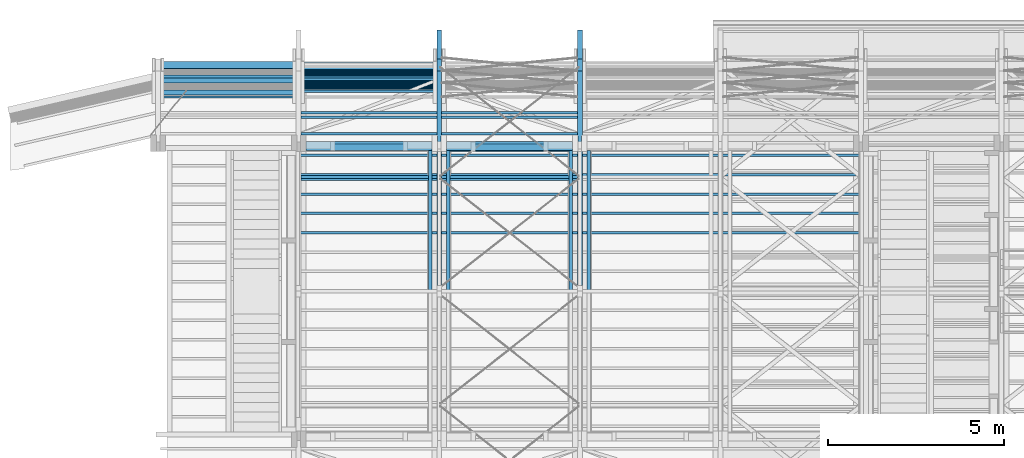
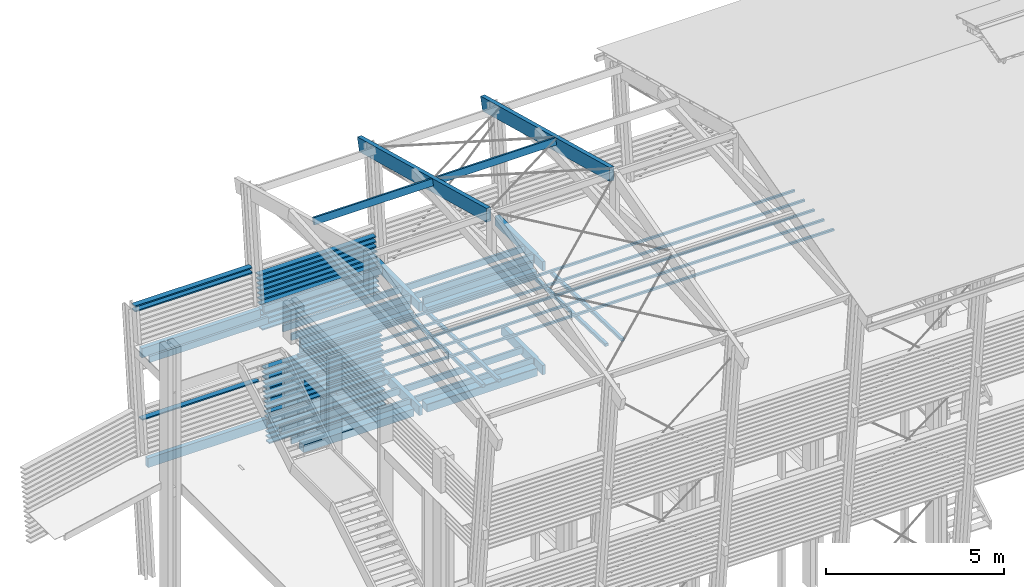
# One storey, part 12 of 48: 68 beams.
"""IFC2X3 building model written with IfcOpenShell, lengths in metres."""

import ifcopenshell
import ifcopenshell.guid

model = None  # the IFC model being written
_history = None  # IfcOwnerHistory: only IFC2X3 demands one
_inside = {}  # id of a spatial element -> (the spatial element, [elements in it])
_under = {}  # id of a project, library or spatial element -> (it, [spatial elements below it])
_declared = {}  # id of a project -> (the project, [libraries it declares])
_typed = {}  # id of a type object -> (the type object, [elements of that type])
_made_of = {}  # id of a material, layer set ... -> (it, [elements and type objects made of it])


def new_model(schema):
    """Start an empty IFC model of exactly this schema.

    Asked for "IFC4X3", IfcOpenShell would pick the latest addendum, in which some entities
    have other attributes; the version numbers below select the first issue.
    IFC2X3 requires an IfcOwnerHistory on every rooted entity: one is made here for all.
    """
    global model, _history
    if schema == "IFC4X3":
        model = ifcopenshell.file(schema_version=(4, 3, 0, 0))
    else:
        model = ifcopenshell.file(schema=schema)
    _inside.clear()
    _under.clear()
    _declared.clear()
    _typed.clear()
    _made_of.clear()
    _history = None
    if model.schema == "IFC2X3":
        org = make("IfcOrganization", Name="unknown")
        user = make(
            "IfcPersonAndOrganization",
            ThePerson=make("IfcPerson", FamilyName="unknown"),
            TheOrganization=org,
        )
        app = make(
            "IfcApplication",
            ApplicationDeveloper=org,
            Version="unknown",
            ApplicationFullName="unknown",
            ApplicationIdentifier="unknown",
        )
        _history = make(
            "IfcOwnerHistory",
            OwningUser=user,
            OwningApplication=app,
            ChangeAction="ADDED",
            CreationDate=0,
        )
    return model


def make(cls, **values):
    """One entity of the class cls with the attributes given. An attribute that is None is left unset."""
    return model.create_entity(
        cls, **{name: value for name, value in values.items() if value is not None}
    )


def rooted(cls, **values):
    """An entity with a GlobalId (a new one), such as an element, a storey or a relation."""
    return make(cls, GlobalId=ifcopenshell.guid.new(), OwnerHistory=_history, **values)


def si_unit(unit_type, name, prefix=None):
    """IfcSIUnit, for example si_unit("LENGTHUNIT", "METRE", prefix="MILLI")."""
    return make("IfcSIUnit", UnitType=unit_type, Prefix=prefix, Name=name)


def assignment(units):
    """IfcUnitAssignment: the units of a project."""
    return None if units is None else make("IfcUnitAssignment", Units=units)


def point(xyz):
    """IfcCartesianPoint."""
    return None if xyz is None else make("IfcCartesianPoint", Coordinates=xyz)


def direction(xyz):
    """IfcDirection."""
    return None if xyz is None else make("IfcDirection", DirectionRatios=xyz)


def frame(location, z_axis=None, x_axis=None):
    """IfcAxis2Placement3D, a coordinate frame: its origin and axes. An axis left out is left unset."""
    return make(
        "IfcAxis2Placement3D",
        Location=point(location),
        Axis=direction(z_axis),
        RefDirection=direction(x_axis),
    )


def origin_with_axes():
    """The frame at (0, 0, 0) with the z axis (0, 0, 1) and the x axis (1, 0, 0) written out."""
    return frame((0.0, 0.0, 0.0), z_axis=(0.0, 0.0, 1.0), x_axis=(1.0, 0.0, 0.0))


def place(relative_to, where):
    """IfcLocalPlacement: puts the frame where relative to a parent placement (None: the world)."""
    return make(
        "IfcLocalPlacement", PlacementRelTo=relative_to, RelativePlacement=where
    )


def context(
    kind, dimensions, precision=None, world=None, true_north=None, identifier=None
):
    """IfcGeometricRepresentationContext, for example the 3D "Model" context."""
    return make(
        "IfcGeometricRepresentationContext",
        ContextIdentifier=identifier,
        ContextType=kind,
        CoordinateSpaceDimension=dimensions,
        Precision=precision,
        WorldCoordinateSystem=world,
        TrueNorth=true_north,
    )


def subcontext(parent, identifier, kind, view, scale=None):
    """IfcGeometricRepresentationSubContext, for example "Body" below "Model"."""
    return make(
        "IfcGeometricRepresentationSubContext",
        ContextIdentifier=identifier,
        ContextType=kind,
        ParentContext=parent,
        TargetScale=scale,
        TargetView=view,
    )


def project(units=None, contexts=None):
    """IfcProject with its units and contexts."""
    return rooted(
        "IfcProject",
        Name="project",
        RepresentationContexts=contexts,
        UnitsInContext=assignment(units),
    )


def spatial(cls, under=None, at=None, **own):
    """A site, building, storey or space (cls), placed at a placement, below another one or the project."""
    s = rooted(cls, ObjectPlacement=at, **own)
    if under is not None:
        _under.setdefault(under.id(), (under, []))[1].append(s)
    return s


def faces_of(points, faces, orient=None, outer=None):
    """IfcFace entities. A face is a list of loops; a loop is a list of indices into points, from 0.

    orient and outer hold one flag for each loop. By default every Orientation is true, the
    first loop of a face is its IfcFaceOuterBound and the others are IfcFaceBound.
    """
    made = []
    for i, loops in enumerate(faces):
        bounds = []
        for j, loop in enumerate(loops):
            is_outer = j == 0 if outer is None else outer[i][j]
            bounds.append(
                make(
                    "IfcFaceOuterBound" if is_outer else "IfcFaceBound",
                    Bound=make("IfcPolyLoop", Polygon=[points[k] for k in loop]),
                    Orientation=True if orient is None else orient[i][j],
                )
            )
        made.append(make("IfcFace", Bounds=bounds))
    return made


def faceted_brep(points, faces, orient=None, outer=None, voids=None):
    """IfcFacetedBrep: a solid bounded by flat faces; with voids (closed shells), ...WithVoids."""
    shared = [point(p) for p in points]
    hull = make("IfcClosedShell", CfsFaces=faces_of(shared, faces, orient, outer))
    if voids is None:
        return make("IfcFacetedBrep", Outer=hull)
    return make(
        "IfcFacetedBrepWithVoids",
        Outer=hull,
        Voids=[
            make(cls, CfsFaces=faces_of(shared, fs, o, b)) for cls, fs, o, b in voids
        ],
    )


def shape(context_of_items, identifier, shape_type, items):
    """IfcShapeRepresentation: the items that make up one representation, for example the "Body"."""
    return make(
        "IfcShapeRepresentation",
        ContextOfItems=context_of_items,
        RepresentationIdentifier=identifier,
        RepresentationType=shape_type,
        Items=items,
    )


def material(Name=None, Category=None):
    """IfcMaterial."""
    return make("IfcMaterial", Name=Name, Category=Category)


def made_of(thing, what):
    """Note that an element or type object is made of a material, layer set ...; save() writes the relation."""
    if what is not None:
        _made_of.setdefault(what.id(), (what, []))[1].append(thing)
    return thing


def element(
    cls,
    number,
    at=None,
    inside=None,
    cuts=None,
    type_object=None,
    material=None,
    context=None,
    identifier="Body",
    shape_type=None,
    held_by="IfcProductDefinitionShape",
    body=None,
    shapes=None,
    **own,
):
    """One element of the class cls, such as IfcWall. Its Tag is "e" and its number.

    at: its placement. inside: the storey or other place that contains it. cuts: it is an
    opening in that element (IfcRelVoidsElement). A single representation is given by context,
    identifier, shape_type and body (its items); several are given by shapes. held_by: the class
    of the entity that holds the representations. save() writes the other relations.
    """
    e = rooted(cls, Tag="e%d" % number, ObjectPlacement=at, **own)
    if body is not None:
        shapes = [shape(context, identifier, shape_type, body)]
    if shapes is not None:
        e.Representation = make(held_by, Representations=shapes)
    if inside is not None:
        _inside.setdefault(inside.id(), (inside, []))[1].append(e)
    if cuts is not None:
        rooted(
            "IfcRelVoidsElement", RelatingBuildingElement=cuts, RelatedOpeningElement=e
        )
    if type_object is not None:
        _typed.setdefault(type_object.id(), (type_object, []))[1].append(e)
    return made_of(e, material)


def aggregate(whole, parts):
    """IfcRelAggregates: a whole, such as a stair, and the parts it consists of."""
    return rooted("IfcRelAggregates", RelatingObject=whole, RelatedObjects=parts)


def save(model, path):
    """Write the relations noted so far, then the file.

    IfcRelAggregates (storeys below a building ...), IfcRelContainedInSpatialStructure (elements
    in a storey), IfcRelDefinesByType, IfcRelAssociatesMaterial and IfcRelDeclares: one each for
    every whole, place, type object, material and project.
    """
    for whole, parts in _under.values():
        aggregate(whole, parts)
    for where, things in _inside.values():
        rooted(
            "IfcRelContainedInSpatialStructure",
            RelatedElements=things,
            RelatingStructure=where,
        )
    for kind, things in _typed.values():
        rooted("IfcRelDefinesByType", RelatedObjects=things, RelatingType=kind)
    for what, things in _made_of.values():
        rooted("IfcRelAssociatesMaterial", RelatedObjects=things, RelatingMaterial=what)
    for by, libraries in _declared.values():
        rooted("IfcRelDeclares", RelatingContext=by, RelatedDefinitions=libraries)
    model.write(path)


model = new_model("IFC2X3")

# Units and contexts
model_context = context("Model", 3, precision=1e-06, world=origin_with_axes(), true_north=direction((0.0, 1.0, 0.0)))
body_context = subcontext(model_context, "Body", "Model", "MODEL_VIEW")
ifc_project = project(units=[si_unit("LENGTHUNIT", "METRE"), si_unit("AREAUNIT", "SQUARE_METRE"), si_unit("VOLUMEUNIT", "CUBIC_METRE"), si_unit("PLANEANGLEUNIT", "RADIAN")], contexts=[model_context])

# Site, building, storey
site_placement = place(None, origin_with_axes())
site = spatial("IfcSite", under=ifc_project, at=site_placement, CompositionType="ELEMENT")
building_placement = place(site_placement, origin_with_axes())
building = spatial("IfcBuilding", under=site, at=building_placement, Name="Building 1", CompositionType="ELEMENT")
storey_placement = place(building_placement, origin_with_axes())
storey = spatial("IfcBuildingStorey", under=building, at=storey_placement, Name="Storey 1", CompositionType="ELEMENT", Elevation=0.0)

# Beams
ifc_material_1 = material(Name="Moabi")
beam_1_placement = place(storey_placement, frame((29.3927441, -182.920681, 7.5554733), z_axis=(0.0, -0.9945219, 0.1045285), x_axis=(-1.0, 0.0, 0.0)))
element("IfcBeam", 1, at=beam_1_placement, inside=storey, material=ifc_material_1, Name="garde corp", context=body_context, shape_type="Brep", body=[
    faceted_brep([(3.806, -0.02, 0.1), (3.806, 0.02, 0.1), (0.0, 0.02, 0.1), (0.0, -0.02, 0.1), (3.806, 0.02, -0.1), (0.0, 0.02, -0.1), (3.806, -0.02, -0.1), (0.0, -0.02, -0.1)], [[[0, 1, 2, 3]], [[1, 4, 5, 2]], [[4, 6, 7, 5]], [[6, 0, 3, 7]], [[1, 0, 6, 4]], [[7, 3, 2, 5]]]),
])
ifc_material_2 = material(Name="GL28h")
beam_2_placement = place(storey_placement, frame((29.6997437, -185.0764881, 7.4), z_axis=(0.0, 0.0, 1.0), x_axis=(1.0, 0.0, 0.0)))
element("IfcBeam", 2, at=beam_2_placement, inside=storey, material=ifc_material_2, Name="Buton", context=body_context, shape_type="Brep", body=[
    faceted_brep([(0.0, 0.13, 0.13), (0.0, -0.13, 0.13), (3.58, -0.13, 0.13), (3.58, 0.13, 0.13), (0.0, -0.13, -0.13), (3.58, -0.13, -0.13), (0.0, 0.13, -0.13), (3.58, 0.13, -0.13)], [[[0, 1, 2, 3]], [[2, 1, 4, 5]], [[1, 0, 6, 4]], [[5, 4, 6, 7]], [[0, 3, 7, 6]], [[3, 2, 5, 7]]]),
])
beam_3_placement = place(storey_placement, frame((29.4897437, -181.8355309, 11.197686), z_axis=(0.0, 0.258819, 0.9659258), x_axis=(0.0, -0.9659258, 0.258819)))
element("IfcBeam", 3, at=beam_3_placement, inside=storey, material=ifc_material_2, Name="Arbalétrier", context=body_context, shape_type="Brep", body=[
    faceted_brep([(7.4053414, 0.07, -0.23), (7.5285981, 0.07, 0.23), (7.5285981, -0.07, 0.23), (7.4053414, -0.07, -0.23), (0.0, 0.07, 0.23), (0.0, -0.07, 0.23), (0.0, 0.07, -0.23), (0.0, -0.07, -0.23)], [[[0, 1, 2, 3]], [[2, 1, 4, 5]], [[1, 0, 6, 4]], [[0, 3, 7, 6]], [[3, 2, 5, 7]], [[6, 7, 5, 4]]]),
])
for number, where, z_axis, x_axis in (
    (4, (29.6997437, -185.0764881, 4.085), (0.0, 0.0, 1.0), (1.0, 0.0, 0.0)),
    (5, (29.6997437, -185.0964881, 4.085), (0.0, 0.0, 1.0), (1.0, 0.0, 0.0)),
):
    element("IfcBeam", number, at=place(storey_placement, frame(where, z_axis=z_axis, x_axis=x_axis)), inside=storey, material=ifc_material_2, Name="Buton", context=body_context, shape_type="Brep", body=[
        faceted_brep([(0.0, 0.13, 0.13), (0.0, -0.13, 0.13), (3.58, -0.13, 0.13), (3.58, 0.13, 0.13), (0.0, -0.13, -0.13), (3.58, -0.13, -0.13), (0.0, 0.13, -0.13), (3.58, 0.13, -0.13)], [[[0, 1, 2, 3]], [[2, 1, 4, 5]], [[1, 0, 6, 4]], [[5, 4, 6, 7]], [[0, 3, 7, 6]], [[3, 2, 5, 7]]]),
    ])
beam_4_placement = place(storey_placement, frame((25.3927437, -182.77016, 8.9875849), z_axis=(0.0, -0.9945219, 0.1045285), x_axis=(-1.0, 0.0, 0.0)))
element("IfcBeam", 6, at=beam_4_placement, inside=storey, material=ifc_material_1, Name="garde corp", context=body_context, shape_type="Brep", body=[
    faceted_brep([(3.8190004, 0.02, 0.1), (3.8190008, 0.02, -0.1), (0.0, 0.02, -0.1), (0.0, 0.02, 0.1), (3.8190004, -0.02, -0.1), (0.0, -0.02, -0.1), (3.8190008, -0.02, 0.1), (0.0, -0.02, 0.1)], [[[0, 1, 2, 3]], [[1, 4, 5, 2]], [[4, 6, 7, 5]], [[6, 0, 3, 7]], [[0, 6, 4, 1]], [[5, 7, 3, 2]]]),
])
for number, where, z_axis, x_axis, name in (
    (7, (29.3927441, -182.9708546, 7.0781028), (0.0, -0.9945219, 0.1045285), (-1.0, 0.0, 0.0), "garde corp"),
    (8, (29.3927441, -182.8872319, 7.8737203), (0.0, -0.9945219, 0.1045285), (-1.0, 0.0, 0.0), "garde corp"),
    (9, (29.3927441, -182.9541301, 7.2372263), (0.0, -0.9945219, 0.1045285), (-1.0, 0.0, 0.0), "garde corp"),
    (10, (29.3927441, -182.9039564, 7.7145968), (0.0, -0.9945219, 0.1045285), (-1.0, 0.0, 0.0), "garde corp"),
    (11, (29.3927441, -182.9374055, 7.3963498), (0.0, -0.9945219, 0.1045285), (-1.0, 0.0, 0.0), "garde corp"),
):
    element("IfcBeam", number, at=place(storey_placement, frame(where, z_axis=z_axis, x_axis=x_axis)), inside=storey, material=ifc_material_1, Name=name, context=body_context, shape_type="Brep", body=[
        faceted_brep([(3.806, -0.02, 0.1), (3.806, 0.02, 0.1), (0.0, 0.02, 0.1), (0.0, -0.02, 0.1), (3.806, 0.02, -0.1), (0.0, 0.02, -0.1), (3.806, -0.02, -0.1), (0.0, -0.02, -0.1)], [[[0, 1, 2, 3]], [[1, 4, 5, 2]], [[4, 6, 7, 5]], [[6, 0, 3, 7]], [[1, 0, 6, 4]], [[7, 3, 2, 5]]]),
    ])
beam_5_placement = place(storey_placement, frame((25.3927439, -183.1548247, 5.3277443), z_axis=(0.0, -0.9945219, 0.1045285), x_axis=(-1.0, 0.0, 0.0)))
element("IfcBeam", 12, at=beam_5_placement, inside=storey, material=ifc_material_1, Name="garde corp", context=body_context, shape_type="Brep", body=[
    faceted_brep([(3.8048053, -0.02, 0.1), (3.8048053, 0.02, 0.1), (0.0, 0.02, 0.1), (0.0, -0.02, 0.1), (3.8048051, 0.02, -0.1), (0.0, 0.02, -0.1), (3.8048053, -0.02, -0.1), (0.0, -0.02, -0.1)], [[[0, 1, 2, 3]], [[1, 4, 5, 2]], [[4, 6, 7, 5]], [[6, 0, 3, 7]], [[1, 0, 6, 4]], [[7, 3, 2, 5]]]),
])
beam_6_placement = place(storey_placement, frame((29.3927441, -182.8370582, 8.3510909), z_axis=(0.0, -0.9945219, 0.1045285), x_axis=(-1.0, 0.0, 0.0)))
element("IfcBeam", 13, at=beam_6_placement, inside=storey, material=ifc_material_1, Name="garde corp", context=body_context, shape_type="Brep", body=[
    faceted_brep([(3.806, -0.02, 0.1), (3.806, 0.02, 0.1), (0.0, 0.02, 0.1), (0.0, -0.02, 0.1), (3.806, 0.02, -0.1), (0.0, 0.02, -0.1), (3.806, -0.02, -0.1), (0.0, -0.02, -0.1)], [[[0, 1, 2, 3]], [[1, 4, 5, 2]], [[4, 6, 7, 5]], [[6, 0, 3, 7]], [[1, 0, 6, 4]], [[7, 3, 2, 5]]]),
])
beam_7_placement = place(storey_placement, frame((29.3927439, -183.3722439, 3.2591388), z_axis=(0.0, -0.9945219, 0.1045285), x_axis=(-1.0, 0.0, 0.0)))
element("IfcBeam", 14, at=beam_7_placement, inside=storey, material=ifc_material_1, Name="garde corp", context=body_context, shape_type="Brep", body=[
    faceted_brep([(3.8048051, -0.02, 0.1), (3.8048051, 0.02, 0.1), (0.0, 0.02, 0.1), (0.0, -0.02, 0.1), (3.8048051, 0.02, -0.1), (0.0, 0.02, -0.1), (3.8048051, -0.02, -0.1), (0.0, -0.02, -0.1)], [[[0, 1, 2, 3]], [[1, 4, 5, 2]], [[4, 6, 7, 5]], [[6, 0, 3, 7]], [[1, 0, 6, 4]], [[7, 3, 2, 5]]]),
])
beam_8_placement = place(storey_placement, frame((29.3927439, -183.3555194, 3.4182623), z_axis=(0.0, -0.9945219, 0.1045285), x_axis=(-1.0, 0.0, 0.0)))
element("IfcBeam", 15, at=beam_8_placement, inside=storey, material=ifc_material_1, Name="garde corp", context=body_context, shape_type="Brep", body=[
    faceted_brep([(3.8047073, -0.02, 0.1), (3.8047077, 0.02, 0.1), (0.0, 0.02, 0.1), (0.0, -0.02, 0.1), (3.8047077, 0.02, -0.1), (0.0, 0.02, -0.1), (3.8047077, -0.02, -0.1), (0.0, -0.02, -0.1)], [[[0, 1, 2, 3]], [[1, 4, 5, 2]], [[4, 6, 7, 5]], [[6, 0, 3, 7]], [[1, 0, 6, 4]], [[7, 3, 2, 5]]]),
])
beam_9_placement = place(storey_placement, frame((25.3927441, -182.7868846, 8.8284614), z_axis=(0.0, -0.9945219, 0.1045285), x_axis=(-1.0, 0.0, 0.0)))
element("IfcBeam", 16, at=beam_9_placement, inside=storey, material=ifc_material_1, Name="garde corp", context=body_context, shape_type="Brep", body=[
    faceted_brep([(3.8190008, 0.02, 0.1), (3.8190008, 0.02, -0.1), (0.0, 0.02, -0.1), (0.0, 0.02, 0.1), (3.8190008, -0.02, -0.1), (0.0, -0.02, -0.1), (3.8190008, -0.02, 0.1), (0.0, -0.02, 0.1)], [[[0, 1, 2, 3]], [[1, 4, 5, 2]], [[4, 6, 7, 5]], [[6, 0, 3, 7]], [[0, 6, 4, 1]], [[5, 7, 3, 2]]]),
])
beam_10_placement = place(storey_placement, frame((29.3927439, -183.1213756, 5.6459913), z_axis=(0.0, -0.9945219, 0.1045285), x_axis=(-1.0, 0.0, 0.0)))
element("IfcBeam", 17, at=beam_10_placement, inside=storey, material=ifc_material_1, Name="garde corp", context=body_context, shape_type="Brep", body=[
    faceted_brep([(3.8048053, -0.02, 0.1), (3.8048053, 0.02, 0.1), (0.0, 0.02, 0.1), (0.0, -0.02, 0.1), (3.8048051, 0.02, -0.1), (0.0, 0.02, -0.1), (3.8048053, -0.02, -0.1), (0.0, -0.02, -0.1)], [[[0, 1, 2, 3]], [[1, 4, 5, 2]], [[4, 6, 7, 5]], [[6, 0, 3, 7]], [[1, 0, 6, 4]], [[7, 3, 2, 5]]]),
])
beam_11_placement = place(storey_placement, frame((29.3927439, -183.1381002, 5.4868678), z_axis=(0.0, -0.9945219, 0.1045285), x_axis=(-1.0, 0.0, 0.0)))
element("IfcBeam", 18, at=beam_11_placement, inside=storey, material=ifc_material_1, Name="garde corp", context=body_context, shape_type="Brep", body=[
    faceted_brep([(3.8047071, -0.02, 0.1), (3.8047079, 0.02, 0.1), (0.0, 0.02, 0.1), (0.0, -0.02, 0.1), (3.8047077, 0.02, -0.1), (0.0, 0.02, -0.1), (3.8047071, -0.02, -0.1), (0.0, -0.02, -0.1)], [[[0, 1, 2, 3]], [[1, 4, 5, 2]], [[4, 6, 7, 5]], [[6, 0, 3, 7]], [[1, 0, 6, 4]], [[7, 3, 2, 5]]]),
])
beam_12_placement = place(storey_placement, frame((29.3927439, -183.2049984, 4.8503738), z_axis=(0.0, -0.9945219, 0.1045285), x_axis=(-1.0, 0.0, 0.0)))
element("IfcBeam", 19, at=beam_12_placement, inside=storey, material=ifc_material_1, Name="garde corp", context=body_context, shape_type="Brep", body=[
    faceted_brep([(3.8048053, -0.02, 0.1), (3.8048053, 0.02, 0.1), (0.0, 0.02, 0.1), (0.0, -0.02, 0.1), (3.8048051, 0.02, -0.1), (0.0, 0.02, -0.1), (3.8048053, -0.02, -0.1), (0.0, -0.02, -0.1)], [[[0, 1, 2, 3]], [[1, 4, 5, 2]], [[4, 6, 7, 5]], [[6, 0, 3, 7]], [[1, 0, 6, 4]], [[7, 3, 2, 5]]]),
])
for number, where, z_axis, x_axis, name in (
    (20, (29.3927441, -182.8203337, 8.5102144), (0.0, -0.9945219, 0.1045285), (-1.0, 0.0, 0.0), "garde corp"),
    (21, (29.3927441, -182.9875792, 6.9189793), (0.0, -0.9945219, 0.1045285), (-1.0, 0.0, 0.0), "garde corp"),
    (22, (29.3927441, -182.8537828, 8.1919674), (0.0, -0.9945219, 0.1045285), (-1.0, 0.0, 0.0), "garde corp"),
):
    element("IfcBeam", number, at=place(storey_placement, frame(where, z_axis=z_axis, x_axis=x_axis)), inside=storey, material=ifc_material_1, Name=name, context=body_context, shape_type="Brep", body=[
        faceted_brep([(3.806, -0.02, 0.1), (3.806, 0.02, 0.1), (0.0, 0.02, 0.1), (0.0, -0.02, 0.1), (3.806, 0.02, -0.1), (0.0, 0.02, -0.1), (3.806, -0.02, -0.1), (0.0, -0.02, -0.1)], [[[0, 1, 2, 3]], [[1, 4, 5, 2]], [[4, 6, 7, 5]], [[6, 0, 3, 7]], [[1, 0, 6, 4]], [[7, 3, 2, 5]]]),
    ])
beam_13_placement = place(storey_placement, frame((25.4197437, -186.4446515, 7.494), z_axis=(0.0, 0.0, 1.0), x_axis=(1.0, 0.0, 0.0)))
element("IfcBeam", 23, at=beam_13_placement, inside=storey, material=ifc_material_2, Name="Poutre - Bois de construction", context=body_context, shape_type="Brep", body=[
    faceted_brep([(16.14, -0.035, -0.035), (16.14, -0.035, 0.035), (0.0, -0.035, 0.035), (0.0, -0.035, -0.035), (16.14, 0.035, 0.035), (0.0, 0.035, 0.035), (16.14, 0.035, -0.035), (0.0, 0.035, -0.035)], [[[0, 1, 2, 3]], [[1, 4, 5, 2]], [[4, 6, 7, 5]], [[6, 0, 3, 7]], [[1, 0, 6, 4]], [[7, 3, 2, 5]]]),
])
beam_14_placement = place(storey_placement, frame((25.5598393, -184.2514881, 7.699), z_axis=(0.0, 0.0, 1.0), x_axis=(1.0, 0.0, 0.0)))
element("IfcBeam", 24, at=beam_14_placement, inside=storey, material=ifc_material_2, Name="Solive", context=body_context, shape_type="Brep", body=[
    faceted_brep([(3.8599996, -0.035, -0.11), (3.8599996, 0.035, -0.11), (3.8599996, 0.035, 0.11), (3.8599996, -0.035, 0.11), (0.0, 0.035, -0.11), (0.0, 0.035, 0.11), (0.0, -0.035, -0.11), (0.0, -0.035, 0.11)], [[[0, 1, 2, 3]], [[2, 1, 4, 5]], [[1, 0, 6, 4]], [[0, 3, 7, 6]], [[3, 2, 5, 7]], [[7, 5, 4, 6]]]),
])
for number, where, z_axis, x_axis, name in (
    (25, (25.4197437, -186.9946515, 7.494), (0.0, 0.0, 1.0), (1.0, 0.0, 0.0), "Poutre - Bois de construction"),
    (26, (25.4197437, -187.5446515, 7.494), (0.0, 0.0, 1.0), (1.0, 0.0, 0.0), "Poutre - Bois de construction"),
    (27, (25.4197437, -185.3446515, 7.494), (0.0, 0.0, 1.0), (1.0, 0.0, 0.0), "Poutre - Bois de construction"),
    (28, (25.4197437, -185.8946515, 7.494), (0.0, 0.0, 1.0), (1.0, 0.0, 0.0), "Poutre - Bois de construction"),
):
    element("IfcBeam", number, at=place(storey_placement, frame(where, z_axis=z_axis, x_axis=x_axis)), inside=storey, material=ifc_material_2, Name=name, context=body_context, shape_type="Brep", body=[
        faceted_brep([(16.14, -0.035, -0.035), (16.14, -0.035, 0.035), (0.0, -0.035, 0.035), (0.0, -0.035, -0.035), (16.14, 0.035, 0.035), (0.0, 0.035, 0.035), (16.14, 0.035, -0.035), (0.0, 0.035, -0.035)], [[[0, 1, 2, 3]], [[1, 4, 5, 2]], [[4, 6, 7, 5]], [[6, 0, 3, 7]], [[1, 0, 6, 4]], [[7, 3, 2, 5]]]),
    ])
beam_15_placement = place(storey_placement, frame((25.5597433, -185.9913803, 12.4354756), z_axis=(0.0, 0.258819, 0.9659258), x_axis=(1.0, 0.0, 0.0)))
element("IfcBeam", 29, at=beam_15_placement, inside=storey, material=ifc_material_2, Name="Buton", context=body_context, shape_type="Brep", body=[
    faceted_brep([(3.8600004, -0.045, 0.11), (3.8600004, 0.045, 0.11), (0.0, 0.045, 0.11), (0.0, -0.045, 0.11), (3.8600004, -0.045, -0.11), (0.0, -0.045, -0.11), (3.8600004, 0.045, -0.11), (0.0, 0.045, -0.11)], [[[0, 1, 2, 3]], [[4, 0, 3, 5]], [[6, 4, 5, 7]], [[1, 6, 7, 2]], [[1, 0, 4, 6]], [[2, 7, 5, 3]]]),
])
beam_16_placement = place(storey_placement, frame((25.5597437, -184.1344693, 4.139), z_axis=(0.0, 0.0, 1.0), x_axis=(1.0, 0.0, 0.0)))
element("IfcBeam", 30, at=beam_16_placement, inside=storey, material=ifc_material_2, Name="Solive", context=body_context, shape_type="Brep", body=[
    faceted_brep([(3.86, 0.035, 0.11), (3.86, 0.035, -0.11), (0.0, 0.035, -0.11), (0.0, 0.035, 0.11), (3.86, -0.035, -0.11), (0.0, -0.035, -0.11), (3.86, -0.035, 0.11), (0.0, -0.035, 0.11)], [[[0, 1, 2, 3]], [[1, 4, 5, 2]], [[4, 6, 7, 5]], [[6, 0, 3, 7]], [[1, 0, 6, 4]], [[7, 3, 2, 5]]]),
])
beam_17_placement = place(storey_placement, frame((33.2297437, -189.2095691, 7.4500014), z_axis=(0.0, 0.0299865, 0.9995503), x_axis=(0.0, 0.9995503, -0.0299865)))
element("IfcBeam", 31, at=beam_17_placement, inside=storey, material=ifc_material_2, Name="Sous-glace", context=body_context, shape_type="Brep", body=[
    faceted_brep([(0.0, -0.05, 0.05), (0.003, -0.05, -0.05), (4.006373, -0.05, -0.05), (4.003373, -0.05, 0.05), (4.003373, 0.05, 0.05), (0.0, 0.05, 0.05), (0.003, 0.05, -0.05), (4.006373, 0.05, -0.05)], [[[0, 1, 2, 3]], [[3, 4, 5, 0]], [[6, 5, 4, 7]], [[1, 6, 7, 2]], [[5, 6, 1, 0]], [[2, 7, 4, 3]]]),
])
beam_18_placement = place(storey_placement, frame((29.3927437, -182.8036091, 8.6693379), z_axis=(0.0, -0.9945219, 0.1045285), x_axis=(-1.0, 0.0, 0.0)))
element("IfcBeam", 32, at=beam_18_placement, inside=storey, material=ifc_material_1, Name="garde corp", context=body_context, shape_type="Brep", body=[
    faceted_brep([(3.806, -0.02, 0.1), (3.806, 0.02, 0.1), (0.0, 0.02, 0.1), (0.0, -0.02, 0.1), (3.806, 0.02, -0.1), (0.0, 0.02, -0.1), (3.806, -0.02, -0.1), (0.0, -0.02, -0.1)], [[[0, 1, 2, 3]], [[1, 4, 5, 2]], [[4, 6, 7, 5]], [[6, 0, 3, 7]], [[1, 0, 6, 4]], [[7, 3, 2, 5]]]),
])
beam_19_placement = place(storey_placement, frame((29.3927439, -183.3220703, 3.7365093), z_axis=(0.0, -0.9945219, 0.1045285), x_axis=(-1.0, 0.0, 0.0)))
element("IfcBeam", 33, at=beam_19_placement, inside=storey, material=ifc_material_1, Name="garde corp", context=body_context, shape_type="Brep", body=[
    faceted_brep([(3.8047073, -0.02, 0.1), (3.8047077, 0.02, 0.1), (0.0, 0.02, 0.1), (0.0, -0.02, 0.1), (3.8047077, 0.02, -0.1), (0.0, 0.02, -0.1), (3.8047077, -0.02, -0.1), (0.0, -0.02, -0.1)], [[[0, 1, 2, 3]], [[1, 4, 5, 2]], [[4, 6, 7, 5]], [[6, 0, 3, 7]], [[1, 0, 6, 4]], [[7, 3, 2, 5]]]),
])
beam_20_placement = place(storey_placement, frame((29.3927439, -183.1715493, 5.1686208), z_axis=(0.0, -0.9945219, 0.1045285), x_axis=(-1.0, 0.0, 0.0)))
element("IfcBeam", 34, at=beam_20_placement, inside=storey, material=ifc_material_1, Name="garde corp", context=body_context, shape_type="Brep", body=[
    faceted_brep([(3.8048053, -0.02, 0.1), (3.8048053, 0.02, 0.1), (0.0, 0.02, 0.1), (0.0, -0.02, 0.1), (3.8048051, 0.02, -0.1), (0.0, 0.02, -0.1), (3.8048053, -0.02, -0.1), (0.0, -0.02, -0.1)], [[[0, 1, 2, 3]], [[1, 4, 5, 2]], [[4, 6, 7, 5]], [[6, 0, 3, 7]], [[1, 0, 6, 4]], [[7, 3, 2, 5]]]),
])
beam_21_placement = place(storey_placement, frame((29.3927439, -183.2551721, 4.3730033), z_axis=(0.0, -0.9945219, 0.1045285), x_axis=(-1.0, 0.0, 0.0)))
element("IfcBeam", 35, at=beam_21_placement, inside=storey, material=ifc_material_1, Name="garde corp", context=body_context, shape_type="Brep", body=[
    faceted_brep([(3.8048051, -0.02, 0.1), (3.8048051, 0.02, 0.1), (0.0, 0.02, 0.1), (0.0, -0.02, 0.1), (3.8048051, 0.02, -0.1), (0.0, 0.02, -0.1), (3.8048051, -0.02, -0.1), (0.0, -0.02, -0.1)], [[[0, 1, 2, 3]], [[1, 4, 5, 2]], [[4, 6, 7, 5]], [[6, 0, 3, 7]], [[1, 0, 6, 4]], [[7, 3, 2, 5]]]),
])
beam_22_placement = place(storey_placement, frame((29.3927439, -183.221723, 4.6912503), z_axis=(0.0, -0.9945219, 0.1045285), x_axis=(-1.0, 0.0, 0.0)))
element("IfcBeam", 36, at=beam_22_placement, inside=storey, material=ifc_material_1, Name="garde corp", context=body_context, shape_type="Brep", body=[
    faceted_brep([(3.8047071, -0.02, 0.1), (3.8047079, 0.02, 0.1), (0.0, 0.02, 0.1), (0.0, -0.02, 0.1), (3.8047071, 0.02, -0.1), (0.0, 0.02, -0.1), (3.8047071, -0.02, -0.1), (0.0, -0.02, -0.1)], [[[0, 1, 2, 3]], [[1, 4, 5, 2]], [[4, 6, 7, 5]], [[6, 0, 3, 7]], [[1, 0, 6, 4]], [[7, 3, 2, 5]]]),
])
beam_23_placement = place(storey_placement, frame((29.3927439, -183.1882738, 5.0094973), z_axis=(0.0, -0.9945219, 0.1045285), x_axis=(-1.0, 0.0, 0.0)))
element("IfcBeam", 37, at=beam_23_placement, inside=storey, material=ifc_material_1, Name="garde corp", context=body_context, shape_type="Brep", body=[
    faceted_brep([(3.8047077, -0.02, 0.1), (3.8047077, 0.02, 0.1), (0.0, 0.02, 0.1), (0.0, -0.02, 0.1), (3.8047077, 0.02, -0.1), (0.0, 0.02, -0.1), (3.8047077, -0.02, -0.1), (0.0, -0.02, -0.1)], [[[0, 1, 2, 3]], [[1, 4, 5, 2]], [[4, 6, 7, 5]], [[6, 0, 3, 7]], [[1, 0, 6, 4]], [[7, 3, 2, 5]]]),
])
beam_24_placement = place(storey_placement, frame((29.3927437, -182.8705073, 8.0328439), z_axis=(0.0, -0.9945219, 0.1045285), x_axis=(-1.0, 0.0, 0.0)))
element("IfcBeam", 38, at=beam_24_placement, inside=storey, material=ifc_material_1, Name="garde corp", context=body_context, shape_type="Brep", body=[
    faceted_brep([(3.806, -0.02, 0.1), (3.806, 0.02, 0.1), (0.0, 0.02, 0.1), (0.0, -0.02, 0.1), (3.806, 0.02, -0.1), (0.0, 0.02, -0.1), (3.806, -0.02, -0.1), (0.0, -0.02, -0.1)], [[[0, 1, 2, 3]], [[1, 4, 5, 2]], [[4, 6, 7, 5]], [[6, 0, 3, 7]], [[1, 0, 6, 4]], [[7, 3, 2, 5]]]),
])
beam_25_placement = place(storey_placement, frame((29.3927439, -183.3053457, 3.8956328), z_axis=(0.0, -0.9945219, 0.1045285), x_axis=(-1.0, 0.0, 0.0)))
element("IfcBeam", 39, at=beam_25_placement, inside=storey, material=ifc_material_1, Name="garde corp", context=body_context, shape_type="Brep", body=[
    faceted_brep([(3.8047073, -0.02, 0.1), (3.8047075, 0.02, 0.1), (0.0, 0.02, 0.1), (0.0, -0.02, 0.1), (3.8047077, 0.02, -0.1), (0.0, 0.02, -0.1), (3.8047077, -0.02, -0.1), (0.0, -0.02, -0.1)], [[[0, 1, 2, 3]], [[1, 4, 5, 2]], [[4, 6, 7, 5]], [[6, 0, 3, 7]], [[1, 0, 6, 4]], [[7, 3, 2, 5]]]),
])
beam_26_placement = place(storey_placement, frame((29.3927439, -183.2886212, 4.0547563), z_axis=(0.0, -0.9945219, 0.1045285), x_axis=(-1.0, 0.0, 0.0)))
element("IfcBeam", 40, at=beam_26_placement, inside=storey, material=ifc_material_1, Name="garde corp", context=body_context, shape_type="Brep", body=[
    faceted_brep([(3.8048051, -0.02, 0.1), (3.8048051, 0.02, 0.1), (0.0, 0.02, 0.1), (0.0, -0.02, 0.1), (3.8048051, 0.02, -0.1), (0.0, 0.02, -0.1), (3.8048051, -0.02, -0.1), (0.0, -0.02, -0.1)], [[[0, 1, 2, 3]], [[1, 4, 5, 2]], [[4, 6, 7, 5]], [[6, 0, 3, 7]], [[1, 0, 6, 4]], [[7, 3, 2, 5]]]),
])
beam_27_placement = place(storey_placement, frame((25.5597437, -183.5174506, 4.139), z_axis=(0.0, 0.0, 1.0), x_axis=(1.0, 0.0, 0.0)))
element("IfcBeam", 41, at=beam_27_placement, inside=storey, material=ifc_material_2, Name="Solive", context=body_context, shape_type="Brep", body=[
    faceted_brep([(3.86, 0.035, 0.11), (3.86, 0.035, -0.11), (0.0, 0.035, -0.11), (0.0, 0.035, 0.11), (3.86, -0.035, -0.11), (0.0, -0.035, -0.11), (3.86, -0.035, 0.11), (0.0, -0.035, 0.11)], [[[0, 1, 2, 3]], [[1, 4, 5, 2]], [[4, 6, 7, 5]], [[6, 0, 3, 7]], [[1, 0, 6, 4]], [[7, 3, 2, 5]]]),
])
beam_28_placement = place(storey_placement, frame((29.3927439, -183.2384475, 4.5321268), z_axis=(0.0, -0.9945219, 0.1045285), x_axis=(-1.0, 0.0, 0.0)))
element("IfcBeam", 42, at=beam_28_placement, inside=storey, material=ifc_material_1, Name="garde corp", context=body_context, shape_type="Brep", body=[
    faceted_brep([(3.8047077, -0.02, 0.1), (3.8047077, 0.02, 0.1), (0.0, 0.02, 0.1), (0.0, -0.02, 0.1), (3.8047077, 0.02, -0.1), (0.0, 0.02, -0.1), (3.8047077, -0.02, -0.1), (0.0, -0.02, -0.1)], [[[0, 1, 2, 3]], [[1, 4, 5, 2]], [[4, 6, 7, 5]], [[6, 0, 3, 7]], [[1, 0, 6, 4]], [[7, 3, 2, 5]]]),
])
beam_29_placement = place(storey_placement, frame((29.3927439, -183.1548247, 5.3277443), z_axis=(0.0, -0.9945219, 0.1045285), x_axis=(-1.0, 0.0, 0.0)))
element("IfcBeam", 43, at=beam_29_placement, inside=storey, material=ifc_material_1, Name="garde corp", context=body_context, shape_type="Brep", body=[
    faceted_brep([(3.8048053, -0.02, 0.1), (3.8048053, 0.02, 0.1), (0.0, 0.02, 0.1), (0.0, -0.02, 0.1), (3.8048051, 0.02, -0.1), (0.0, 0.02, -0.1), (3.8048053, -0.02, -0.1), (0.0, -0.02, -0.1)], [[[0, 1, 2, 3]], [[1, 4, 5, 2]], [[4, 6, 7, 5]], [[6, 0, 3, 7]], [[1, 0, 6, 4]], [[7, 3, 2, 5]]]),
])
beam_30_placement = place(storey_placement, frame((29.3927439, -183.2718966, 4.2138798), z_axis=(0.0, -0.9945219, 0.1045285), x_axis=(-1.0, 0.0, 0.0)))
element("IfcBeam", 44, at=beam_30_placement, inside=storey, material=ifc_material_1, Name="garde corp", context=body_context, shape_type="Brep", body=[
    faceted_brep([(3.8048051, -0.02, 0.1), (3.8048051, 0.02, 0.1), (0.0, 0.02, 0.1), (0.0, -0.02, 0.1), (3.8048051, 0.02, -0.1), (0.0, 0.02, -0.1), (3.8048051, -0.02, -0.1), (0.0, -0.02, -0.1)], [[[0, 1, 2, 3]], [[1, 4, 5, 2]], [[4, 6, 7, 5]], [[6, 0, 3, 7]], [[1, 0, 6, 4]], [[7, 3, 2, 5]]]),
])
beam_31_placement = place(storey_placement, frame((29.3927439, -183.3387948, 3.5773858), z_axis=(0.0, -0.9945219, 0.1045285), x_axis=(-1.0, 0.0, 0.0)))
element("IfcBeam", 45, at=beam_31_placement, inside=storey, material=ifc_material_1, Name="garde corp", context=body_context, shape_type="Brep", body=[
    faceted_brep([(3.8047077, -0.02, 0.1), (3.8047077, 0.02, 0.1), (0.0, 0.02, 0.1), (0.0, -0.02, 0.1), (3.8047077, 0.02, -0.1), (0.0, 0.02, -0.1), (3.8047077, -0.02, -0.1), (0.0, -0.02, -0.1)], [[[0, 1, 2, 3]], [[1, 4, 5, 2]], [[4, 6, 7, 5]], [[6, 0, 3, 7]], [[1, 0, 6, 4]], [[7, 3, 2, 5]]]),
])
beam_32_placement = place(storey_placement, frame((25.5597437, -184.7314881, 4.139), z_axis=(0.0, 0.0, 1.0), x_axis=(1.0, 0.0, 0.0)))
element("IfcBeam", 46, at=beam_32_placement, inside=storey, material=ifc_material_2, Name="Solive", context=body_context, shape_type="Brep", body=[
    faceted_brep([(3.86, 0.035, 0.11), (3.86, 0.035, -0.11), (0.0, 0.035, -0.11), (0.0, 0.035, 0.11), (3.86, -0.035, -0.11), (0.0, -0.035, -0.11), (3.86, -0.035, 0.11), (0.0, -0.035, 0.11)], [[[0, 1, 2, 3]], [[1, 4, 5, 2]], [[4, 6, 7, 5]], [[6, 0, 3, 7]], [[1, 0, 6, 4]], [[7, 3, 2, 5]]]),
])
beam_33_placement = place(storey_placement, frame((33.4897437, -185.2264881, 4.089), z_axis=(0.0, 0.0, 1.0), x_axis=(0.0, 1.0, 0.0)))
element("IfcBeam", 47, at=beam_33_placement, inside=storey, material=ifc_material_2, Name="Sommier Coursive", context=body_context, shape_type="Brep", body=[
    faceted_brep([(0.0, 0.05, 0.16), (0.44, 0.05, 0.16), (0.44, 0.05, -0.16), (0.0, 0.05, -0.16), (0.44, 0.07, 0.16), (0.44, 0.07, -0.16), (0.0, -0.05, 0.16), (0.44, -0.05, 0.16), (0.44, -0.07, 0.16), (2.2900003, -0.07, 0.16), (2.2900003, 0.07, 0.16), (0.0, -0.05, -0.16), (0.44, -0.05, -0.16), (0.44, -0.07, -0.16), (2.2900003, 0.07, -0.16), (2.2900003, -0.07, -0.16)], [[[0, 1, 2, 3]], [[1, 4, 5, 2]], [[4, 1, 0, 6, 7, 8, 9, 10]], [[0, 3, 11, 6]], [[11, 12, 7, 6]], [[12, 13, 8, 7]], [[2, 5, 14, 15, 13, 12, 11, 3]], [[8, 13, 15, 9]], [[5, 4, 10, 14]], [[10, 9, 15, 14]]]),
])
beam_34_placement = place(storey_placement, frame((25.5597437, -184.7314881, 7.699), z_axis=(0.0, 0.0, 1.0), x_axis=(1.0, 0.0, 0.0)))
element("IfcBeam", 48, at=beam_34_placement, inside=storey, material=ifc_material_2, Name="Solive", context=body_context, shape_type="Brep", body=[
    faceted_brep([(3.86, 0.035, 0.11), (3.86, 0.035, -0.11), (0.0, 0.035, -0.11), (0.0, 0.035, 0.11), (3.86, -0.035, -0.11), (0.0, -0.035, -0.11), (3.86, -0.035, 0.11), (0.0, -0.035, 0.11)], [[[0, 1, 2, 3]], [[1, 4, 5, 2]], [[4, 6, 7, 5]], [[6, 0, 3, 7]], [[1, 0, 6, 4]], [[7, 3, 2, 5]]]),
])
beam_35_placement = place(storey_placement, frame((25.5598393, -183.1714881, 7.699), z_axis=(0.0, 0.0, 1.0), x_axis=(1.0, 0.0, 0.0)))
element("IfcBeam", 49, at=beam_35_placement, inside=storey, material=ifc_material_2, Name="Solive", context=body_context, shape_type="Brep", body=[
    faceted_brep([(3.8599996, -0.035, -0.11), (3.8599996, 0.035, -0.11), (3.8599996, 0.035, 0.11), (3.8599996, -0.035, 0.11), (0.0, 0.035, -0.11), (0.0, 0.035, 0.11), (0.0, -0.035, -0.11), (0.0, -0.035, 0.11)], [[[0, 1, 2, 3]], [[2, 1, 4, 5]], [[1, 0, 6, 4]], [[0, 3, 7, 6]], [[3, 2, 5, 7]], [[7, 5, 4, 6]]]),
])
beam_36_placement = place(storey_placement, frame((33.7497437, -189.2095691, 7.4500014), z_axis=(0.0, 0.0299865, 0.9995503), x_axis=(0.0, 0.9995503, -0.0299865)))
element("IfcBeam", 50, at=beam_36_placement, inside=storey, material=ifc_material_2, Name="Sous-glace", context=body_context, shape_type="Brep", body=[
    faceted_brep([(0.0, -0.05, 0.05), (0.003, -0.05, -0.05), (4.006373, -0.05, -0.05), (4.003373, -0.05, 0.05), (4.003373, 0.05, 0.05), (0.0, 0.05, 0.05), (0.003, 0.05, -0.05), (4.006373, 0.05, -0.05)], [[[0, 1, 2, 3]], [[3, 4, 5, 0]], [[6, 5, 4, 7]], [[1, 6, 7, 2]], [[5, 6, 1, 0]], [[2, 7, 4, 3]]]),
])
beam_37_placement = place(storey_placement, frame((29.6997437, -184.9814881, 7.64), z_axis=(0.0, 0.0, 1.0), x_axis=(1.0, 0.0, 0.0)))
element("IfcBeam", 51, at=beam_37_placement, inside=storey, material=ifc_material_2, Name="Rive", context=body_context, shape_type="Brep", body=[
    faceted_brep([(0.0, -0.035, -0.11), (0.0, -0.035, 0.11), (0.0, 0.035, 0.11), (0.0, 0.035, -0.11), (3.58, 0.035, -0.11), (3.58, -0.035, -0.11), (3.58, -0.035, 0.11), (3.58, 0.035, 0.11)], [[[0, 1, 2, 3]], [[0, 3, 4, 5]], [[1, 0, 5, 6]], [[5, 4, 7, 6]], [[3, 2, 7, 4]], [[2, 1, 6, 7]]]),
])
for number, where, z_axis, x_axis in (
    (52, (29.5597437, -184.7314881, 4.139), (0.0, 0.0, 1.0), (1.0, 0.0, 0.0)),
    (53, (29.5597437, -184.1344693, 4.139), (0.0, 0.0, 1.0), (1.0, 0.0, 0.0)),
):
    element("IfcBeam", number, at=place(storey_placement, frame(where, z_axis=z_axis, x_axis=x_axis)), inside=storey, material=ifc_material_2, Name="Solive", context=body_context, shape_type="Brep", body=[
        faceted_brep([(3.86, 0.035, 0.11), (3.86, 0.035, -0.11), (0.0, 0.035, -0.11), (0.0, 0.035, 0.11), (3.86, -0.035, -0.11), (0.0, -0.035, -0.11), (3.86, -0.035, 0.11), (0.0, -0.035, 0.11)], [[[0, 1, 2, 3]], [[1, 4, 5, 2]], [[4, 6, 7, 5]], [[6, 0, 3, 7]], [[1, 0, 6, 4]], [[7, 3, 2, 5]]]),
    ])
beam_38_placement = place(storey_placement, frame((29.2297437, -189.2095691, 7.4500014), z_axis=(0.0, 0.0299865, 0.9995503), x_axis=(0.0, 0.9995503, -0.0299865)))
element("IfcBeam", 54, at=beam_38_placement, inside=storey, material=ifc_material_2, Name="Sous-glace", context=body_context, shape_type="Brep", body=[
    faceted_brep([(0.0, -0.05, 0.05), (0.003, -0.05, -0.05), (4.006373, -0.05, -0.05), (4.003373, -0.05, 0.05), (4.003373, 0.05, 0.05), (0.0, 0.05, 0.05), (0.003, 0.05, -0.05), (4.006373, 0.05, -0.05)], [[[0, 1, 2, 3]], [[3, 4, 5, 0]], [[6, 5, 4, 7]], [[1, 6, 7, 2]], [[5, 6, 1, 0]], [[2, 7, 4, 3]]]),
])
beam_39_placement = place(storey_placement, frame((25.6997437, -184.9814881, 7.64), z_axis=(0.0, 0.0, 1.0), x_axis=(1.0, 0.0, 0.0)))
element("IfcBeam", 55, at=beam_39_placement, inside=storey, material=ifc_material_2, Name="Rive", context=body_context, shape_type="Brep", body=[
    faceted_brep([(0.0, -0.035, -0.11), (0.0, -0.035, 0.11), (0.0, 0.035, 0.11), (0.0, 0.035, -0.11), (3.58, 0.035, -0.11), (3.58, -0.035, -0.11), (3.58, -0.035, 0.11), (3.58, 0.035, 0.11)], [[[0, 1, 2, 3]], [[0, 3, 4, 5]], [[1, 0, 5, 6]], [[5, 4, 7, 6]], [[3, 2, 7, 4]], [[2, 1, 6, 7]]]),
])
beam_40_placement = place(storey_placement, frame((29.5597433, -185.9913803, 12.4354756), z_axis=(0.0, 0.258819, 0.9659258), x_axis=(1.0, 0.0, 0.0)))
element("IfcBeam", 56, at=beam_40_placement, inside=storey, material=ifc_material_2, Name="Buton", context=body_context, shape_type="Brep", body=[
    faceted_brep([(3.8600004, -0.045, 0.11), (3.8600004, 0.045, 0.11), (0.0, 0.045, 0.11), (0.0, -0.045, 0.11), (3.8600004, -0.045, -0.11), (0.0, -0.045, -0.11), (3.8600004, 0.045, -0.11), (0.0, 0.045, -0.11)], [[[0, 1, 2, 3]], [[4, 0, 3, 5]], [[6, 4, 5, 7]], [[1, 6, 7, 2]], [[1, 0, 4, 6]], [[2, 7, 5, 3]]]),
])
for number, where, z_axis, x_axis in (
    (57, (25.6997437, -185.0764881, 7.4), (0.0, 0.0, 1.0), (1.0, 0.0, 0.0)),
    (58, (25.6997437, -185.0764881, 4.085), (0.0, 0.0, 1.0), (1.0, 0.0, 0.0)),
):
    element("IfcBeam", number, at=place(storey_placement, frame(where, z_axis=z_axis, x_axis=x_axis)), inside=storey, material=ifc_material_2, Name="Buton", context=body_context, shape_type="Brep", body=[
        faceted_brep([(0.0, 0.13, 0.13), (0.0, -0.13, 0.13), (3.58, -0.13, 0.13), (3.58, 0.13, 0.13), (0.0, -0.13, -0.13), (3.58, -0.13, -0.13), (0.0, 0.13, -0.13), (3.58, 0.13, -0.13)], [[[0, 1, 2, 3]], [[2, 1, 4, 5]], [[1, 0, 6, 4]], [[5, 4, 6, 7]], [[0, 3, 7, 6]], [[3, 2, 5, 7]]]),
    ])
beam_41_placement = place(storey_placement, frame((29.7497437, -189.2095691, 7.4500014), z_axis=(0.0, 0.0299865, 0.9995503), x_axis=(0.0, 0.9995503, -0.0299865)))
element("IfcBeam", 59, at=beam_41_placement, inside=storey, material=ifc_material_2, Name="Sous-glace", context=body_context, shape_type="Brep", body=[
    faceted_brep([(0.0, -0.05, 0.05), (0.003, -0.05, -0.05), (4.006373, -0.05, -0.05), (4.003373, -0.05, 0.05), (4.003373, 0.05, 0.05), (0.0, 0.05, 0.05), (0.003, 0.05, -0.05), (4.006373, 0.05, -0.05)], [[[0, 1, 2, 3]], [[3, 4, 5, 0]], [[6, 5, 4, 7]], [[1, 6, 7, 2]], [[5, 6, 1, 0]], [[2, 7, 4, 3]]]),
])
beam_42_placement = place(storey_placement, frame((33.4897437, -185.2264881, 7.649), z_axis=(0.0, 0.0, 1.0), x_axis=(0.0, 1.0, 0.0)))
element("IfcBeam", 60, at=beam_42_placement, inside=storey, material=ifc_material_2, Name="Sommier Coursive", context=body_context, shape_type="Brep", body=[
    faceted_brep([(0.0, -0.05, -0.16), (0.44, -0.05, -0.16), (0.44, -0.05, 0.16), (0.0, -0.05, 0.16), (0.44, -0.07, -0.16), (0.44, -0.07, 0.16), (0.0, 0.05, 0.16), (0.0, 0.05, -0.16), (2.6285375, -0.07, 0.16), (2.6285375, 0.07, 0.16), (0.44, 0.07, 0.16), (0.44, 0.05, 0.16), (0.44, 0.05, -0.16), (0.44, 0.07, -0.16), (2.6285375, -0.07, -0.16), (2.6285375, 0.07, -0.16)], [[[0, 1, 2, 3]], [[1, 4, 5, 2]], [[0, 3, 6, 7]], [[3, 2, 5, 8, 9, 10, 11, 6]], [[6, 11, 12, 7]], [[11, 10, 13, 12]], [[5, 4, 14, 8]], [[1, 0, 7, 12, 13, 15, 14, 4]], [[13, 10, 9, 15]], [[9, 8, 14, 15]]]),
])
beam_43_placement = place(storey_placement, frame((33.4897437, -181.8355309, 11.197686), z_axis=(0.0, 0.258819, 0.9659258), x_axis=(0.0, -0.9659258, 0.258819)))
element("IfcBeam", 61, at=beam_43_placement, inside=storey, material=ifc_material_2, Name="Arbalétrier", context=body_context, shape_type="Brep", body=[
    faceted_brep([(7.4053414, 0.07, -0.23), (7.5285981, 0.07, 0.23), (7.5285981, -0.07, 0.23), (7.4053414, -0.07, -0.23), (0.0, 0.07, 0.23), (0.0, -0.07, 0.23), (0.0, 0.07, -0.23), (0.0, -0.07, -0.23)], [[[0, 1, 2, 3]], [[2, 1, 4, 5]], [[1, 0, 6, 4]], [[0, 3, 7, 6]], [[3, 2, 5, 7]], [[6, 7, 5, 4]]]),
])
beam_44_placement = place(storey_placement, frame((29.4897437, -185.2264881, 7.649), z_axis=(0.0, 0.0, 1.0), x_axis=(0.0, 1.0, 0.0)))
element("IfcBeam", 62, at=beam_44_placement, inside=storey, material=ifc_material_2, Name="Sommier Coursive", context=body_context, shape_type="Brep", body=[
    faceted_brep([(0.0, -0.05, -0.16), (0.44, -0.05, -0.16), (0.44, -0.05, 0.16), (0.0, -0.05, 0.16), (0.44, -0.07, -0.16), (0.44, -0.07, 0.16), (0.0, 0.05, 0.16), (0.0, 0.05, -0.16), (2.6285375, -0.07, 0.16), (2.6285375, 0.07, 0.16), (0.44, 0.07, 0.16), (0.44, 0.05, 0.16), (0.44, 0.05, -0.16), (0.44, 0.07, -0.16), (2.6285375, -0.07, -0.16), (2.6285375, 0.07, -0.16)], [[[0, 1, 2, 3]], [[1, 4, 5, 2]], [[0, 3, 6, 7]], [[3, 2, 5, 8, 9, 10, 11, 6]], [[6, 11, 12, 7]], [[11, 10, 13, 12]], [[5, 4, 14, 8]], [[1, 0, 7, 12, 13, 15, 14, 4]], [[13, 10, 9, 15]], [[9, 8, 14, 15]]]),
])
beam_45_placement = place(storey_placement, frame((29.4897437, -185.2264881, 4.089), z_axis=(0.0, 0.0, 1.0), x_axis=(0.0, 1.0, 0.0)))
element("IfcBeam", 63, at=beam_45_placement, inside=storey, material=ifc_material_2, Name="Sommier Coursive", context=body_context, shape_type="Brep", body=[
    faceted_brep([(0.0, 0.05, 0.16), (0.44, 0.05, 0.16), (0.44, 0.05, -0.16), (0.0, 0.05, -0.16), (0.44, 0.07, 0.16), (0.44, 0.07, -0.16), (0.0, -0.05, 0.16), (0.44, -0.05, 0.16), (0.44, -0.07, 0.16), (2.2900003, -0.07, 0.16), (2.2900003, 0.07, 0.16), (0.0, -0.05, -0.16), (0.44, -0.05, -0.16), (0.44, -0.07, -0.16), (2.2900003, 0.07, -0.16), (2.2900003, -0.07, -0.16)], [[[0, 1, 2, 3]], [[1, 4, 5, 2]], [[4, 1, 0, 6, 7, 8, 9, 10]], [[0, 3, 11, 6]], [[11, 12, 7, 6]], [[12, 13, 8, 7]], [[2, 5, 14, 15, 13, 12, 11, 3]], [[8, 13, 15, 9]], [[5, 4, 10, 14]], [[10, 9, 15, 14]]]),
])
beam_46_placement = place(storey_placement, frame((25.4197437, -183.2077087, 7.649), z_axis=(0.0, 0.0, 1.0), x_axis=(-1.0, 0.0, 0.0)))
element("IfcBeam", 64, at=beam_46_placement, inside=storey, material=ifc_material_2, Name="Sommier", context=body_context, shape_type="Brep", body=[
    faceted_brep([(0.0, -0.07, 0.16), (0.0, 0.07, 0.16), (0.0, 0.07, -0.16), (0.0, -0.07, -0.16), (3.86, 0.07, 0.16), (3.86, 0.07, -0.16), (3.86, -0.07, 0.16), (3.86, -0.07, -0.16)], [[[0, 1, 2, 3]], [[2, 1, 4, 5]], [[1, 0, 6, 4]], [[3, 2, 5, 7]], [[0, 3, 7, 6]], [[4, 6, 7, 5]]]),
])
beam_47_placement = place(storey_placement, frame((25.4197437, -183.5524506, 4.089), z_axis=(0.0, 0.0, 1.0), x_axis=(-1.0, 0.0, 0.0)))
element("IfcBeam", 65, at=beam_47_placement, inside=storey, material=ifc_material_2, Name="Sommier", context=body_context, shape_type="Brep", body=[
    faceted_brep([(0.0, -0.07, 0.16), (0.0, 0.07, 0.16), (0.0, 0.07, -0.16), (0.0, -0.07, -0.16), (3.8600004, 0.07, 0.16), (3.8600004, 0.07, -0.16), (3.8600004, -0.07, 0.16), (3.8600004, -0.07, -0.16)], [[[0, 1, 2, 3]], [[2, 1, 4, 5]], [[1, 0, 6, 4]], [[3, 2, 5, 7]], [[0, 3, 7, 6]], [[4, 6, 7, 5]]]),
])
for number, where, z_axis, x_axis in (
    (66, (21.5597437, -183.6814881, 7.699), (0.0, 0.0, 1.0), (1.0, 0.0, 0.0)),
    (67, (29.5597437, -184.2514881, 7.699), (0.0, 0.0, 1.0), (1.0, 0.0, 0.0)),
):
    element("IfcBeam", number, at=place(storey_placement, frame(where, z_axis=z_axis, x_axis=x_axis)), inside=storey, material=ifc_material_2, Name="Solive", context=body_context, shape_type="Brep", body=[
        faceted_brep([(3.86, 0.035, 0.11), (3.86, 0.035, -0.11), (0.0, 0.035, -0.11), (0.0, 0.035, 0.11), (3.86, -0.035, -0.11), (0.0, -0.035, -0.11), (3.86, -0.035, 0.11), (0.0, -0.035, 0.11)], [[[0, 1, 2, 3]], [[1, 4, 5, 2]], [[4, 6, 7, 5]], [[6, 0, 3, 7]], [[1, 0, 6, 4]], [[7, 3, 2, 5]]]),
    ])
beam_48_placement = place(storey_placement, frame((29.5596481, -184.7314881, 7.699), z_axis=(0.0, 0.0, 1.0), x_axis=(1.0, 0.0, 0.0)))
element("IfcBeam", 68, at=beam_48_placement, inside=storey, material=ifc_material_2, Name="Solive", context=body_context, shape_type="Brep", body=[
    faceted_brep([(3.8600004, -0.035, -0.11), (3.8600956, 0.035, -0.11), (3.8600956, 0.035, 0.11), (3.8600004, -0.035, 0.11), (0.0, 0.035, -0.11), (0.0, 0.035, 0.11), (0.0, -0.035, -0.11), (0.0, -0.035, 0.11)], [[[0, 1, 2, 3]], [[2, 1, 4, 5]], [[1, 0, 6, 4]], [[0, 3, 7, 6]], [[3, 2, 5, 7]], [[7, 5, 4, 6]]]),
])

save(model, "model.ifc")
